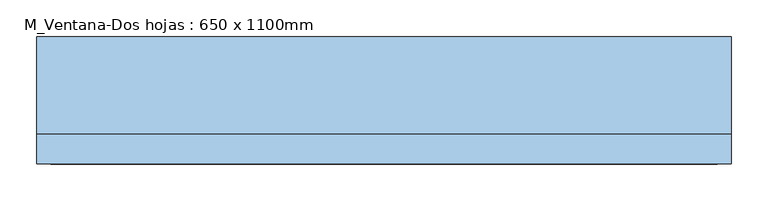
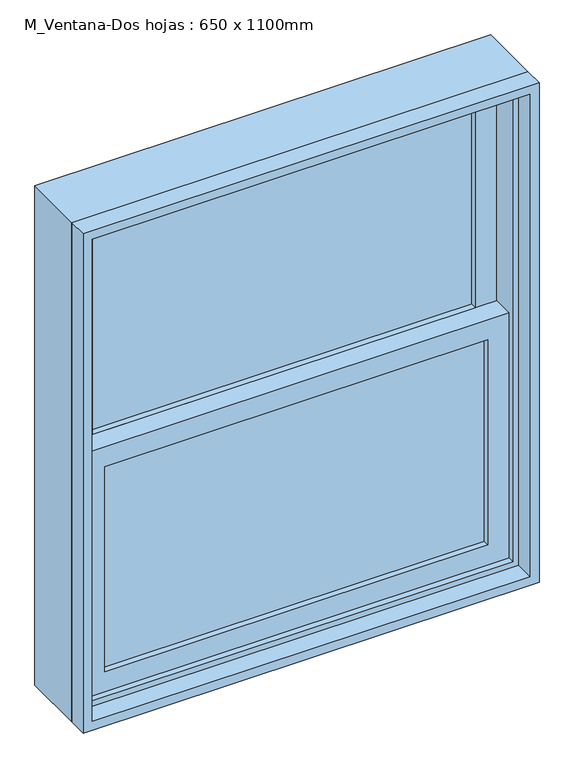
"""IFC4 building model written with IfcOpenShell, lengths in millimetres: window geometry, M_Ventana-Dos hojas : 650 x 1100mm."""

import ifcopenshell
import ifcopenshell.guid

model = None  # the IFC model being written
_history = None  # IfcOwnerHistory: only IFC2X3 demands one
_inside = {}  # id of a spatial element -> (the spatial element, [elements in it])
_under = {}  # id of a project, library or spatial element -> (it, [spatial elements below it])
_declared = {}  # id of a project -> (the project, [libraries it declares])
_typed = {}  # id of a type object -> (the type object, [elements of that type])
_made_of = {}  # id of a material, layer set ... -> (it, [elements and type objects made of it])


def new_model(schema):
    """Start an empty IFC model of exactly this schema.

    Asked for "IFC4X3", IfcOpenShell would pick the latest addendum, in which some entities
    have other attributes; the version numbers below select the first issue.
    IFC2X3 requires an IfcOwnerHistory on every rooted entity: one is made here for all.
    """
    global model, _history
    if schema == "IFC4X3":
        model = ifcopenshell.file(schema_version=(4, 3, 0, 0))
    else:
        model = ifcopenshell.file(schema=schema)
    _inside.clear()
    _under.clear()
    _declared.clear()
    _typed.clear()
    _made_of.clear()
    _history = None
    if model.schema == "IFC2X3":
        org = make("IfcOrganization", Name="unknown")
        user = make(
            "IfcPersonAndOrganization",
            ThePerson=make("IfcPerson", FamilyName="unknown"),
            TheOrganization=org,
        )
        app = make(
            "IfcApplication",
            ApplicationDeveloper=org,
            Version="unknown",
            ApplicationFullName="unknown",
            ApplicationIdentifier="unknown",
        )
        _history = make(
            "IfcOwnerHistory",
            OwningUser=user,
            OwningApplication=app,
            ChangeAction="ADDED",
            CreationDate=0,
        )
    return model


def make(cls, **values):
    """One entity of the class cls with the attributes given. An attribute that is None is left unset."""
    return model.create_entity(
        cls, **{name: value for name, value in values.items() if value is not None}
    )


def rooted(cls, **values):
    """An entity with a GlobalId (a new one), such as an element, a storey or a relation."""
    return make(cls, GlobalId=ifcopenshell.guid.new(), OwnerHistory=_history, **values)


def si_unit(unit_type, name, prefix=None):
    """IfcSIUnit, for example si_unit("LENGTHUNIT", "METRE", prefix="MILLI")."""
    return make("IfcSIUnit", UnitType=unit_type, Prefix=prefix, Name=name)


def assignment(units):
    """IfcUnitAssignment: the units of a project."""
    return None if units is None else make("IfcUnitAssignment", Units=units)


def point(xyz):
    """IfcCartesianPoint."""
    return None if xyz is None else make("IfcCartesianPoint", Coordinates=xyz)


def direction(xyz):
    """IfcDirection."""
    return None if xyz is None else make("IfcDirection", DirectionRatios=xyz)


def frame(location, z_axis=None, x_axis=None):
    """IfcAxis2Placement3D, a coordinate frame: its origin and axes. An axis left out is left unset."""
    return make(
        "IfcAxis2Placement3D",
        Location=point(location),
        Axis=direction(z_axis),
        RefDirection=direction(x_axis),
    )


def origin():
    """The frame at (0, 0, 0) with its axes left unset."""
    return frame((0.0, 0.0, 0.0))


def place(relative_to, where):
    """IfcLocalPlacement: puts the frame where relative to a parent placement (None: the world)."""
    return make(
        "IfcLocalPlacement", PlacementRelTo=relative_to, RelativePlacement=where
    )


def context(
    kind, dimensions, precision=None, world=None, true_north=None, identifier=None
):
    """IfcGeometricRepresentationContext, for example the 3D "Model" context."""
    return make(
        "IfcGeometricRepresentationContext",
        ContextIdentifier=identifier,
        ContextType=kind,
        CoordinateSpaceDimension=dimensions,
        Precision=precision,
        WorldCoordinateSystem=world,
        TrueNorth=true_north,
    )


def project(units=None, contexts=None):
    """IfcProject with its units and contexts."""
    return rooted(
        "IfcProject",
        Name="project",
        RepresentationContexts=contexts,
        UnitsInContext=assignment(units),
    )


def spatial(cls, under=None, at=None, **own):
    """A site, building, storey or space (cls), placed at a placement, below another one or the project."""
    s = rooted(cls, ObjectPlacement=at, **own)
    if under is not None:
        _under.setdefault(under.id(), (under, []))[1].append(s)
    return s


def polyline(points):
    """IfcPolyline through the points."""
    return make("IfcPolyline", Points=[point(p) for p in points])


def outline(outer, holes=None, kind="AREA"):
    """IfcArbitraryClosedProfileDef: a profile drawn as a closed curve; with holes, ...WithVoids."""
    if holes is None:
        return make("IfcArbitraryClosedProfileDef", ProfileType=kind, OuterCurve=outer)
    return make(
        "IfcArbitraryProfileDefWithVoids",
        ProfileType=kind,
        OuterCurve=outer,
        InnerCurves=holes,
    )


def extrude(swept, where, along, depth):
    """IfcExtrudedAreaSolid: the profile swept, set in the frame where, extruded along a direction by depth."""
    return make(
        "IfcExtrudedAreaSolid",
        SweptArea=swept,
        Position=where,
        ExtrudedDirection=direction(along),
        Depth=depth,
    )


def shape(context_of_items, identifier, shape_type, items):
    """IfcShapeRepresentation: the items that make up one representation, for example the "Body"."""
    return make(
        "IfcShapeRepresentation",
        ContextOfItems=context_of_items,
        RepresentationIdentifier=identifier,
        RepresentationType=shape_type,
        Items=items,
    )


def source(mapping_origin, context_of_items, identifier, shape_type, items):
    """IfcRepresentationMap: a shape defined once, which mapped items show again and again."""
    return make(
        "IfcRepresentationMap",
        MappingOrigin=mapping_origin,
        MappedRepresentation=shape(context_of_items, identifier, shape_type, items),
    )


def transform(
    local_origin,
    x_axis=None,
    y_axis=None,
    z_axis=None,
    scale=None,
    scale2=None,
    scale3=None,
    uniform=True,
):
    """IfcCartesianTransformationOperator3D, or its non-uniform kind. x_axis, y_axis, z_axis: its Axis1, 2, 3."""
    if uniform:
        return make(
            "IfcCartesianTransformationOperator3D",
            Axis1=direction(x_axis),
            Axis2=direction(y_axis),
            LocalOrigin=point(local_origin),
            Scale=scale,
            Axis3=direction(z_axis),
        )
    return make(
        "IfcCartesianTransformationOperator3DnonUniform",
        Axis1=direction(x_axis),
        Axis2=direction(y_axis),
        LocalOrigin=point(local_origin),
        Scale=scale,
        Axis3=direction(z_axis),
        Scale2=scale2,
        Scale3=scale3,
    )


def mapped(mapping_source, mapping_target):
    """IfcMappedItem: shows the shape of a source again, moved by a transform."""
    return make(
        "IfcMappedItem", MappingSource=mapping_source, MappingTarget=mapping_target
    )


def made_of(thing, what):
    """Note that an element or type object is made of a material, layer set ...; save() writes the relation."""
    if what is not None:
        _made_of.setdefault(what.id(), (what, []))[1].append(thing)
    return thing


def element(
    cls,
    number,
    at=None,
    inside=None,
    cuts=None,
    type_object=None,
    material=None,
    context=None,
    identifier="Body",
    shape_type=None,
    held_by="IfcProductDefinitionShape",
    body=None,
    shapes=None,
    **own,
):
    """One element of the class cls, such as IfcWall. Its Tag is "e" and its number.

    at: its placement. inside: the storey or other place that contains it. cuts: it is an
    opening in that element (IfcRelVoidsElement). A single representation is given by context,
    identifier, shape_type and body (its items); several are given by shapes. held_by: the class
    of the entity that holds the representations. save() writes the other relations.
    """
    e = rooted(cls, Tag="e%d" % number, ObjectPlacement=at, **own)
    if body is not None:
        shapes = [shape(context, identifier, shape_type, body)]
    if shapes is not None:
        e.Representation = make(held_by, Representations=shapes)
    if inside is not None:
        _inside.setdefault(inside.id(), (inside, []))[1].append(e)
    if cuts is not None:
        rooted(
            "IfcRelVoidsElement", RelatingBuildingElement=cuts, RelatedOpeningElement=e
        )
    if type_object is not None:
        _typed.setdefault(type_object.id(), (type_object, []))[1].append(e)
    return made_of(e, material)


def aggregate(whole, parts):
    """IfcRelAggregates: a whole, such as a stair, and the parts it consists of."""
    return rooted("IfcRelAggregates", RelatingObject=whole, RelatedObjects=parts)


def save(model, path):
    """Write the relations noted so far, then the file.

    IfcRelAggregates (storeys below a building ...), IfcRelContainedInSpatialStructure (elements
    in a storey), IfcRelDefinesByType, IfcRelAssociatesMaterial and IfcRelDeclares: one each for
    every whole, place, type object, material and project.
    """
    for whole, parts in _under.values():
        aggregate(whole, parts)
    for where, things in _inside.values():
        rooted(
            "IfcRelContainedInSpatialStructure",
            RelatedElements=things,
            RelatingStructure=where,
        )
    for kind, things in _typed.values():
        rooted("IfcRelDefinesByType", RelatedObjects=things, RelatingType=kind)
    for what, things in _made_of.values():
        rooted("IfcRelAssociatesMaterial", RelatedObjects=things, RelatingMaterial=what)
    for by, libraries in _declared.values():
        rooted("IfcRelDeclares", RelatingContext=by, RelatedDefinitions=libraries)
    model.write(path)


def m_ventana_dos_hojas_650_x_1100mm_6053d4a6(model_context):
    return source(origin(), model_context, "Body", "SweptSolid", [
        extrude(outline(polyline([(2014.4, 475.0), (2014.4, -475.0), (914.4, -475.0), (914.4, 475.0), (2014.4, 475.0)]), holes=[polyline([(1995.35, 455.95), (933.45, 455.95), (933.45, -455.95), (1995.35, -455.95), (1995.35, 455.95)])]), frame((0.0, -77.5, 0.0), z_axis=(0.0, 1.0, 0.0), x_axis=(0.0, 0.0, 1.0)), (0.0, 0.0, 1.0), 40.7),
        extrude(outline(polyline([(2014.4, -475.0), (914.4, -475.0), (914.4, 475.0), (2014.4, 475.0), (2014.4, -475.0)]), holes=[polyline([(1982.65, 443.25), (946.15, 443.25), (946.15, -443.25), (1982.65, -443.25), (1982.65, 443.25)])]), frame((0.0, -36.8, 0.0), z_axis=(0.0, 1.0, 0.0), x_axis=(0.0, 0.0, 1.0)), (0.0, 0.0, 1.0), 133.35),
        extrude(outline(polyline([(1982.65, -443.25), (1442.175, -443.25), (1442.175, 443.25), (1982.65, 443.25), (1982.65, -443.25)]), holes=[polyline([(1938.2, 398.8), (1486.625, 398.8), (1486.625, -398.8), (1938.2, -398.8), (1938.2, 398.8)])]), frame((0.0, 20.35, 0.0), z_axis=(0.0, 1.0, 0.0), x_axis=(0.0, 0.0, 1.0)), (0.0, 0.0, 1.0), 44.45),
        extrude(outline(polyline([(1486.625, -443.25), (946.15, -443.25), (946.15, 443.25), (1486.625, 443.25), (1486.625, -443.25)]), holes=[polyline([(1442.175, 398.8), (990.6, 398.8), (990.6, -398.8), (1442.175, -398.8), (1442.175, 398.8)])]), frame((0.0, -24.1, 0.0), z_axis=(0.0, 1.0, 0.0), x_axis=(0.0, 0.0, 1.0)), (0.0, 0.0, 1.0), 44.45),
        extrude(outline(polyline([(398.8, 52.1), (398.8, 45.75), (-398.8, 45.75), (-398.8, 52.1), (398.8, 52.1)])), frame((0.0, 0.0, 1486.625), z_axis=(0.0, 0.0, 1.0), x_axis=(1.0, 0.0, 0.0)), (0.0, 0.0, 1.0), 451.575),
        extrude(outline(polyline([(-398.8, 39.4), (398.8, 39.4), (398.8, 33.05), (-398.8, 33.05), (-398.8, 39.4)])), frame((0.0, 0.0, 1486.625), z_axis=(0.0, 0.0, 1.0), x_axis=(1.0, 0.0, 0.0)), (0.0, 0.0, 1.0), 451.575),
        extrude(outline(polyline([(398.8, 7.65), (398.8, 1.3), (-398.8, 1.3), (-398.8, 7.65), (398.8, 7.65)])), frame((0.0, 0.0, 990.6), z_axis=(0.0, 0.0, 1.0), x_axis=(1.0, 0.0, 0.0)), (0.0, 0.0, 1.0), 451.575),
        extrude(outline(polyline([(-398.8, -5.05), (398.8, -5.05), (398.8, -11.4), (-398.8, -11.4), (-398.8, -5.05)])), frame((0.0, 0.0, 990.6), z_axis=(0.0, 0.0, 1.0), x_axis=(1.0, 0.0, 0.0)), (0.0, 0.0, 1.0), 451.575),
    ])


if __name__ == "__main__":
    model = new_model("IFC4")
    model_context = context("Model", 3, world=origin())
    ifc_project = project(units=[si_unit("LENGTHUNIT", "METRE", prefix="MILLI")], contexts=[model_context])
    site = spatial("IfcSite", under=ifc_project)
    building = spatial("IfcBuilding", under=site)
    placement = place(None, origin())
    m_ventana_dos_hojas_650_x_1100mm_shape = m_ventana_dos_hojas_650_x_1100mm_6053d4a6(model_context)
    element("IfcWindow", 1, ObjectType="M_Ventana-Dos hojas : 650 x 1100mm", at=placement, inside=building, context=model_context, shape_type="MappedRepresentation", body=[
        mapped(m_ventana_dos_hojas_650_x_1100mm_shape, transform((0.0, 0.0, 0.0), x_axis=(1.0, 0.0, 0.0), y_axis=(0.0, 1.0, 0.0), z_axis=(0.0, 0.0, 1.0))),
    ])
    save(model, "model.ifc")
